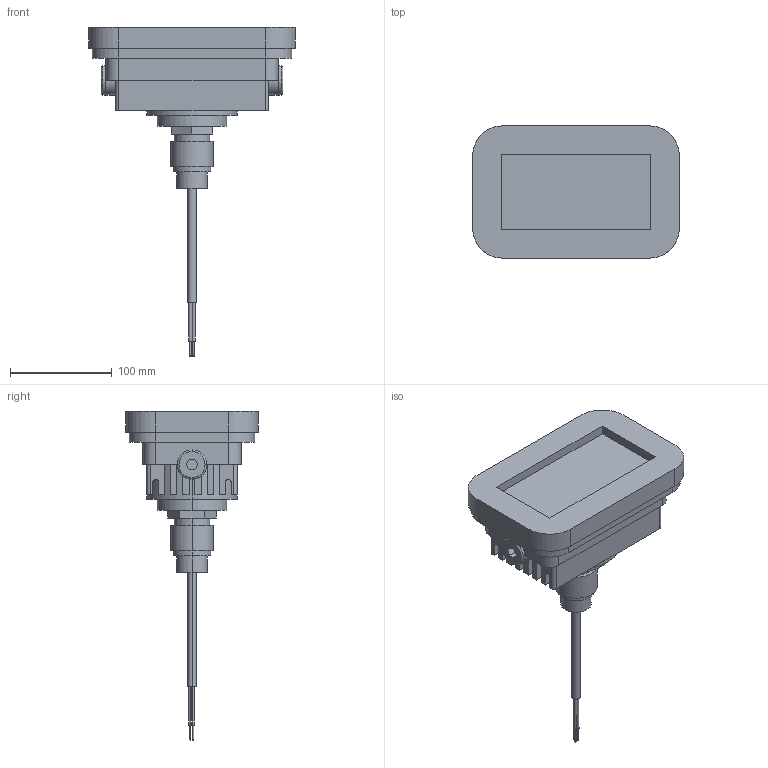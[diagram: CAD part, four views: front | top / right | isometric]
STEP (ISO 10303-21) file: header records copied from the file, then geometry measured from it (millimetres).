
FILE_DESCRIPTION (( 'STEP AP203' ), '1' );
FILE_NAME ('EPLX-HB-40W-SQ2-LED-TRC.STEP', '2017-06-16T14:34:36', ( '' ), ( '' ), 'SwSTEP 2.0', 'SolidWorks 2016', '' );
FILE_SCHEMA (( 'CONFIG_CONTROL_DESIGN' ));
Length unit declared in the file: inch
Products named in the file (1): EPLX-HB-40W-SQ2-LED-TRC
Bounding box: 203.2 x 130.18 x 323.77 mm (x, y, z)
Volume: 1492797.4 mm3; surface area: 144190.1 mm2
Topology: 1 solids, 1 shells, 194 faces, 489 edges, 320 vertices
Faces by surface type: plane 121, cylinder 63, torus 10
Entity records: 6104 total; most frequent: CARTESIAN_POINT 1220, DIRECTION 1031, ORIENTED_EDGE 978, EDGE_CURVE 489, AXIS2_PLACEMENT_3D 359, VERTEX_POINT 320, VECTOR 313, LINE 313
